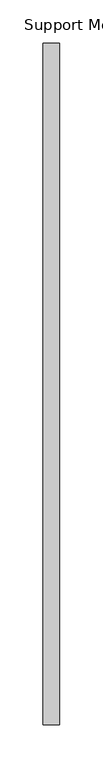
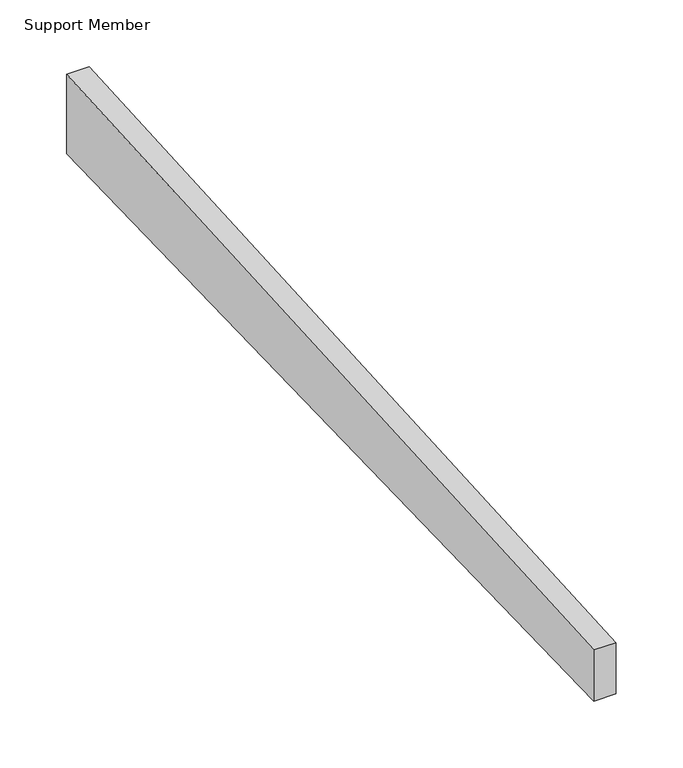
"""IFC4 building model written with IfcOpenShell, lengths in millimetres: beam geometry, Support Memeber : Support Member."""

import ifcopenshell
import ifcopenshell.guid

model = None  # the IFC model being written
_history = None  # IfcOwnerHistory: only IFC2X3 demands one
_inside = {}  # id of a spatial element -> (the spatial element, [elements in it])
_under = {}  # id of a project, library or spatial element -> (it, [spatial elements below it])
_declared = {}  # id of a project -> (the project, [libraries it declares])
_typed = {}  # id of a type object -> (the type object, [elements of that type])
_made_of = {}  # id of a material, layer set ... -> (it, [elements and type objects made of it])


def new_model(schema):
    """Start an empty IFC model of exactly this schema.

    Asked for "IFC4X3", IfcOpenShell would pick the latest addendum, in which some entities
    have other attributes; the version numbers below select the first issue.
    IFC2X3 requires an IfcOwnerHistory on every rooted entity: one is made here for all.
    """
    global model, _history
    if schema == "IFC4X3":
        model = ifcopenshell.file(schema_version=(4, 3, 0, 0))
    else:
        model = ifcopenshell.file(schema=schema)
    _inside.clear()
    _under.clear()
    _declared.clear()
    _typed.clear()
    _made_of.clear()
    _history = None
    if model.schema == "IFC2X3":
        org = make("IfcOrganization", Name="unknown")
        user = make(
            "IfcPersonAndOrganization",
            ThePerson=make("IfcPerson", FamilyName="unknown"),
            TheOrganization=org,
        )
        app = make(
            "IfcApplication",
            ApplicationDeveloper=org,
            Version="unknown",
            ApplicationFullName="unknown",
            ApplicationIdentifier="unknown",
        )
        _history = make(
            "IfcOwnerHistory",
            OwningUser=user,
            OwningApplication=app,
            ChangeAction="ADDED",
            CreationDate=0,
        )
    return model


def make(cls, **values):
    """One entity of the class cls with the attributes given. An attribute that is None is left unset."""
    return model.create_entity(
        cls, **{name: value for name, value in values.items() if value is not None}
    )


def rooted(cls, **values):
    """An entity with a GlobalId (a new one), such as an element, a storey or a relation."""
    return make(cls, GlobalId=ifcopenshell.guid.new(), OwnerHistory=_history, **values)


def si_unit(unit_type, name, prefix=None):
    """IfcSIUnit, for example si_unit("LENGTHUNIT", "METRE", prefix="MILLI")."""
    return make("IfcSIUnit", UnitType=unit_type, Prefix=prefix, Name=name)


def assignment(units):
    """IfcUnitAssignment: the units of a project."""
    return None if units is None else make("IfcUnitAssignment", Units=units)


def point(xyz):
    """IfcCartesianPoint."""
    return None if xyz is None else make("IfcCartesianPoint", Coordinates=xyz)


def direction(xyz):
    """IfcDirection."""
    return None if xyz is None else make("IfcDirection", DirectionRatios=xyz)


def frame(location, z_axis=None, x_axis=None):
    """IfcAxis2Placement3D, a coordinate frame: its origin and axes. An axis left out is left unset."""
    return make(
        "IfcAxis2Placement3D",
        Location=point(location),
        Axis=direction(z_axis),
        RefDirection=direction(x_axis),
    )


def frame_2d(location, x_axis=None):
    """IfcAxis2Placement2D, a coordinate frame in the plane: its origin and x axis."""
    return make(
        "IfcAxis2Placement2D", Location=point(location), RefDirection=direction(x_axis)
    )


def origin():
    """The frame at (0, 0, 0) with its axes left unset."""
    return frame((0.0, 0.0, 0.0))


def place(relative_to, where):
    """IfcLocalPlacement: puts the frame where relative to a parent placement (None: the world)."""
    return make(
        "IfcLocalPlacement", PlacementRelTo=relative_to, RelativePlacement=where
    )


def context(
    kind, dimensions, precision=None, world=None, true_north=None, identifier=None
):
    """IfcGeometricRepresentationContext, for example the 3D "Model" context."""
    return make(
        "IfcGeometricRepresentationContext",
        ContextIdentifier=identifier,
        ContextType=kind,
        CoordinateSpaceDimension=dimensions,
        Precision=precision,
        WorldCoordinateSystem=world,
        TrueNorth=true_north,
    )


def project(units=None, contexts=None):
    """IfcProject with its units and contexts."""
    return rooted(
        "IfcProject",
        Name="project",
        RepresentationContexts=contexts,
        UnitsInContext=assignment(units),
    )


def spatial(cls, under=None, at=None, **own):
    """A site, building, storey or space (cls), placed at a placement, below another one or the project."""
    s = rooted(cls, ObjectPlacement=at, **own)
    if under is not None:
        _under.setdefault(under.id(), (under, []))[1].append(s)
    return s


def polyline(points):
    """IfcPolyline through the points."""
    return make("IfcPolyline", Points=[point(p) for p in points])


def circle_curve(where, radius):
    """IfcCircle in the frame where."""
    return make("IfcCircle", Position=where, Radius=radius)


def trimmed(basis, trim1, trim2, sense, master):
    """IfcTrimmedCurve: the piece of a basis curve between two trims."""
    return make(
        "IfcTrimmedCurve",
        BasisCurve=basis,
        Trim1=trim1,
        Trim2=trim2,
        SenseAgreement=sense,
        MasterRepresentation=master,
    )


def segment(curve, same_sense, transition):
    """IfcCompositeCurveSegment."""
    return make(
        "IfcCompositeCurveSegment",
        Transition=transition,
        SameSense=same_sense,
        ParentCurve=curve,
    )


def composite_curve(segments, self_intersect=None):
    """IfcCompositeCurve: segments joined end to end."""
    return make("IfcCompositeCurve", Segments=segments, SelfIntersect=self_intersect)


def outline(outer, holes=None, kind="AREA"):
    """IfcArbitraryClosedProfileDef: a profile drawn as a closed curve; with holes, ...WithVoids."""
    if holes is None:
        return make("IfcArbitraryClosedProfileDef", ProfileType=kind, OuterCurve=outer)
    return make(
        "IfcArbitraryProfileDefWithVoids",
        ProfileType=kind,
        OuterCurve=outer,
        InnerCurves=holes,
    )


def extrude(swept, where, along, depth):
    """IfcExtrudedAreaSolid: the profile swept, set in the frame where, extruded along a direction by depth."""
    return make(
        "IfcExtrudedAreaSolid",
        SweptArea=swept,
        Position=where,
        ExtrudedDirection=direction(along),
        Depth=depth,
    )


def shape(context_of_items, identifier, shape_type, items):
    """IfcShapeRepresentation: the items that make up one representation, for example the "Body"."""
    return make(
        "IfcShapeRepresentation",
        ContextOfItems=context_of_items,
        RepresentationIdentifier=identifier,
        RepresentationType=shape_type,
        Items=items,
    )


def source(mapping_origin, context_of_items, identifier, shape_type, items):
    """IfcRepresentationMap: a shape defined once, which mapped items show again and again."""
    return make(
        "IfcRepresentationMap",
        MappingOrigin=mapping_origin,
        MappedRepresentation=shape(context_of_items, identifier, shape_type, items),
    )


def transform(
    local_origin,
    x_axis=None,
    y_axis=None,
    z_axis=None,
    scale=None,
    scale2=None,
    scale3=None,
    uniform=True,
):
    """IfcCartesianTransformationOperator3D, or its non-uniform kind. x_axis, y_axis, z_axis: its Axis1, 2, 3."""
    if uniform:
        return make(
            "IfcCartesianTransformationOperator3D",
            Axis1=direction(x_axis),
            Axis2=direction(y_axis),
            LocalOrigin=point(local_origin),
            Scale=scale,
            Axis3=direction(z_axis),
        )
    return make(
        "IfcCartesianTransformationOperator3DnonUniform",
        Axis1=direction(x_axis),
        Axis2=direction(y_axis),
        LocalOrigin=point(local_origin),
        Scale=scale,
        Axis3=direction(z_axis),
        Scale2=scale2,
        Scale3=scale3,
    )


def mapped(mapping_source, mapping_target):
    """IfcMappedItem: shows the shape of a source again, moved by a transform."""
    return make(
        "IfcMappedItem", MappingSource=mapping_source, MappingTarget=mapping_target
    )


def made_of(thing, what):
    """Note that an element or type object is made of a material, layer set ...; save() writes the relation."""
    if what is not None:
        _made_of.setdefault(what.id(), (what, []))[1].append(thing)
    return thing


def element(
    cls,
    number,
    at=None,
    inside=None,
    cuts=None,
    type_object=None,
    material=None,
    context=None,
    identifier="Body",
    shape_type=None,
    held_by="IfcProductDefinitionShape",
    body=None,
    shapes=None,
    **own,
):
    """One element of the class cls, such as IfcWall. Its Tag is "e" and its number.

    at: its placement. inside: the storey or other place that contains it. cuts: it is an
    opening in that element (IfcRelVoidsElement). A single representation is given by context,
    identifier, shape_type and body (its items); several are given by shapes. held_by: the class
    of the entity that holds the representations. save() writes the other relations.
    """
    e = rooted(cls, Tag="e%d" % number, ObjectPlacement=at, **own)
    if body is not None:
        shapes = [shape(context, identifier, shape_type, body)]
    if shapes is not None:
        e.Representation = make(held_by, Representations=shapes)
    if inside is not None:
        _inside.setdefault(inside.id(), (inside, []))[1].append(e)
    if cuts is not None:
        rooted(
            "IfcRelVoidsElement", RelatingBuildingElement=cuts, RelatedOpeningElement=e
        )
    if type_object is not None:
        _typed.setdefault(type_object.id(), (type_object, []))[1].append(e)
    return made_of(e, material)


def aggregate(whole, parts):
    """IfcRelAggregates: a whole, such as a stair, and the parts it consists of."""
    return rooted("IfcRelAggregates", RelatingObject=whole, RelatedObjects=parts)


def save(model, path):
    """Write the relations noted so far, then the file.

    IfcRelAggregates (storeys below a building ...), IfcRelContainedInSpatialStructure (elements
    in a storey), IfcRelDefinesByType, IfcRelAssociatesMaterial and IfcRelDeclares: one each for
    every whole, place, type object, material and project.
    """
    for whole, parts in _under.values():
        aggregate(whole, parts)
    for where, things in _inside.values():
        rooted(
            "IfcRelContainedInSpatialStructure",
            RelatedElements=things,
            RelatingStructure=where,
        )
    for kind, things in _typed.values():
        rooted("IfcRelDefinesByType", RelatedObjects=things, RelatingType=kind)
    for what, things in _made_of.values():
        rooted("IfcRelAssociatesMaterial", RelatedObjects=things, RelatingMaterial=what)
    for by, libraries in _declared.values():
        rooted("IfcRelDeclares", RelatingContext=by, RelatedDefinitions=libraries)
    model.write(path)


def support_member_90e03ff0(model_context):
    return source(origin(), model_context, "Body", "SweptSolid", [
        extrude(outline(composite_curve([segment(trimmed(circle_curve(frame_2d((-52.5857034, -5687.1064541)), 5687.2399241), [point((-787.4, -47.5367982))], [point((0.0, -0.1096457))], False, "CARTESIAN"), True, "CONTINUOUS"), segment(polyline([(0.0, -0.1096457), (0.0, -72.4141808)]), True, "CONTINUOUS"), segment(trimmed(circle_curve(frame_2d((-277.9139071, -4288.0188107)), 4224.7554409), [point((0.0, -72.4141808))], [point((-787.4, -94.0967255))], True, "CARTESIAN"), True, "CONTINUOUS"), segment(polyline([(-787.4, -94.0967255), (-787.4, -47.5367982)]), True, "CONTINUOUS")], self_intersect=False)), frame((0.0, 0.0, 0.0), z_axis=(1.0, 0.0, 0.0), x_axis=(0.0, 1.0, 0.0)), (0.0, 0.0, 1.0), 19.05),
    ])


if __name__ == "__main__":
    model = new_model("IFC4")
    model_context = context("Model", 3, world=origin())
    ifc_project = project(units=[si_unit("LENGTHUNIT", "METRE", prefix="MILLI")], contexts=[model_context])
    site = spatial("IfcSite", under=ifc_project)
    building = spatial("IfcBuilding", under=site)
    placement = place(None, origin())
    support_member_shape = support_member_90e03ff0(model_context)
    element("IfcBeam", 1, ObjectType="Support Memeber : Support Member", at=placement, inside=building, context=model_context, shape_type="MappedRepresentation", body=[
        mapped(support_member_shape, transform((0.0, 0.0, 0.0), x_axis=(1.0, 0.0, 0.0), y_axis=(0.0, 1.0, 0.0), z_axis=(0.0, 0.0, 1.0))),
    ])
    save(model, "model.ifc")
